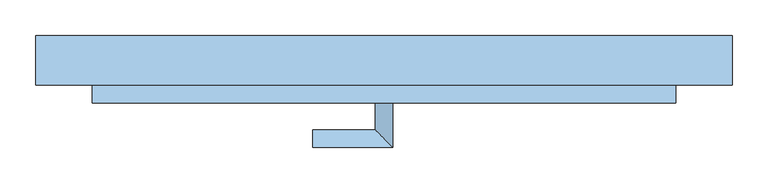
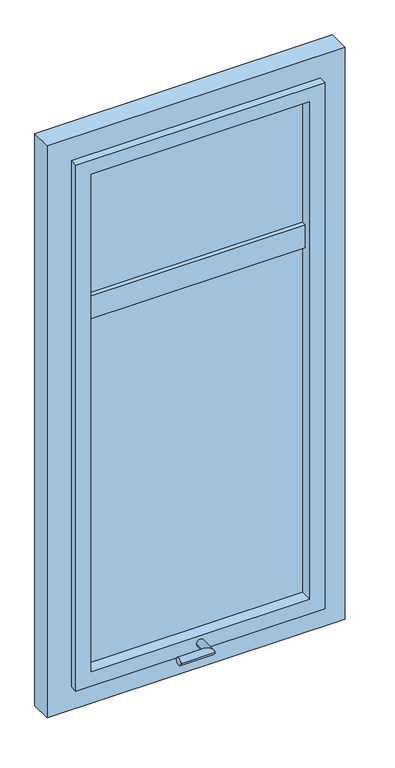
"""IFC4 building model written with IfcOpenShell, lengths in millimetres: window geometry, RFAM2316_Window-10 : Window  FIX (1,0x2)."""

from ifc_helpers import new_model, si_unit, frame, origin, place, context, project, spatial, polyline, circle_curve, ellipse_curve, outline, extrude, faceted_brep, source, transform, mapped, element, save
from ifc_brep_helpers import plane_surface, cylinder_surface, advanced_brep


def window_b37a0a77(model_context):
    return source(origin(), model_context, "Body", "SolidModel", [
        extrude(outline(polyline([(666.8584094, -65.9407167), (666.8584094, -73.9407167), (-153.1415906, -73.9407167), (-153.1415906, -65.9407167), (666.8584094, -65.9407167)])), frame((0.0, 0.0, 2317.0), z_axis=(0.0, 0.0, 1.0), x_axis=(1.0, 0.0, 0.0)), (0.0, 0.0, 1.0), 493.0),
        advanced_brep(
        [(244.3584094, -139.9407167, 1005.0), (269.3584094, -139.9407167, 1005.0), (244.3584094, -177.4407167, 1005.0), (269.3584094, -202.4407167, 1005.0), (156.8584094, -177.4407167, 1005.0), (156.8584094, -202.4407167, 1005.0)],
        [
            (0, 1, circle_curve(frame((256.8584094, -139.9407167, 1005.0), z_axis=(0.0, 1.0, 0.0), x_axis=(1.0, 0.0, 0.0)), 12.5)),
            (1, 0, circle_curve(frame((256.8584094, -139.9407167, 1005.0), z_axis=(0.0, 1.0, 0.0), x_axis=(1.0, 0.0, 0.0)), 12.5)),
            (0, 2),
            (2, 3, ellipse_curve(frame((256.8584094, -189.9407167, 1005.0), z_axis=(0.7071067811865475, 0.7071067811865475, 0.0), x_axis=(-0.7071067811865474, 0.7071067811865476, 0.0)), 17.6776695, 12.5)),
            (3, 1),
            (3, 2, ellipse_curve(frame((256.8584094, -189.9407167, 1005.0), z_axis=(0.7071067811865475, 0.7071067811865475, 0.0), x_axis=(-0.7071067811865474, 0.7071067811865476, 0.0)), 17.6776695, 12.5)),
            (4, 5, circle_curve(frame((156.8584094, -189.9407167, 1005.0), z_axis=(-1.0, 0.0, 0.0), x_axis=(0.0, -1.0, 0.0)), 12.5)),
            (5, 4, circle_curve(frame((156.8584094, -189.9407167, 1005.0), z_axis=(-1.0, 0.0, 0.0), x_axis=(0.0, -1.0, 0.0)), 12.5)),
            (2, 4),
            (5, 3),
        ],
        [
            plane_surface(frame((256.8584094, -139.9407167, 1005.0), z_axis=(0.0, 1.0, 0.0), x_axis=(0.0, 0.0, 1.0))),
            cylinder_surface(frame((256.8584094, -139.9407167, 1005.0), z_axis=(0.0, 1.0, 0.0), x_axis=(1.0, 0.0, 0.0)), 12.5),
            plane_surface(frame((156.8584094, -189.9407167, 1005.0), z_axis=(-1.0, 0.0, 0.0), x_axis=(0.0, 0.0, 1.0))),
            cylinder_surface(frame((256.8584094, -189.9407167, 1005.0), z_axis=(1.0, 0.0, 0.0), x_axis=(0.0, -1.0, 0.0)), 12.5),
        ],
        [
            (0, [[1, 2]]),
            (1, [[-1, 3, 4, 5]]),
            (1, [[-2, -5, 6, -3]]),
            (2, [[7, 8]]),
            (3, [[-4, 9, -8, 10]]),
            (3, [[-6, -10, -7, -9]]),
        ],
    ),
        extrude(outline(polyline([(616.8584094, -90.9407167), (616.8584094, -98.9407167), (-103.1415906, -98.9407167), (-103.1415906, -90.9407167), (616.8584094, -90.9407167)])), frame((0.0, 0.0, 1030.0), z_axis=(0.0, 0.0, 1.0), x_axis=(1.0, 0.0, 0.0)), (0.0, 0.0, 1.0), 1730.0),
        faceted_brep([(-153.1415906, -69.9407167, 980.0), (666.8584094, -69.9407167, 980.0), (666.8584094, -114.9407167, 980.0), (666.8584094, -139.9407167, 980.0), (-153.1415906, -139.9407167, 980.0), (-153.1415906, -114.9407167, 980.0), (-103.1415906, -69.9407167, 1030.0), (-103.1415906, -139.9407167, 1030.0), (616.8584094, -139.9407167, 1030.0), (616.8584094, -69.9407167, 1030.0), (666.8584094, -69.9407167, 2810.0), (666.8584094, -114.9407167, 2810.0), (666.8584094, -139.9407167, 2810.0), (616.8584094, -139.9407167, 2760.0), (616.8584094, -69.9407167, 2760.0), (-153.1415906, -69.9407167, 2810.0), (-153.1415906, -114.9407167, 2810.0), (-153.1415906, -139.9407167, 2810.0), (-103.1415906, -139.9407167, 2760.0), (-103.1415906, -69.9407167, 2760.0)], [[[0, 1, 2, 3, 4, 5]], [[6, 7, 8, 9]], [[1, 10, 11, 12, 3, 2]], [[9, 8, 13, 14]], [[10, 15, 16, 17, 12, 11]], [[14, 13, 18, 19]], [[1, 0, 15, 10], [6, 9, 14, 19]], [[15, 0, 5, 4, 17, 16]], [[4, 3, 12, 17], [8, 7, 18, 13]], [[7, 6, 19, 18]]]),
        extrude(outline(polyline([(2890.0, 746.8584094), (2890.0, -233.1415906), (900.0, -233.1415906), (900.0, 746.8584094), (2890.0, 746.8584094)]), holes=[polyline([(2810.0, -153.1415906), (2810.0, 666.8584094), (2317.0, 666.8584094), (2317.0, -153.1415906), (2810.0, -153.1415906)]), polyline([(980.0, 666.8584094), (980.0, -153.1415906), (2237.0, -153.1415906), (2237.0, 666.8584094), (980.0, 666.8584094)])]), frame((0.0, -114.9407167, 0.0), z_axis=(0.0, 1.0, 0.0), x_axis=(0.0, 0.0, 1.0)), (0.0, 0.0, 1.0), 70.0),
    ])


if __name__ == "__main__":
    model = new_model("IFC4")
    model_context = context("Model", 3, world=origin())
    ifc_project = project(units=[si_unit("LENGTHUNIT", "METRE", prefix="MILLI")], contexts=[model_context])
    site = spatial("IfcSite", under=ifc_project)
    building = spatial("IfcBuilding", under=site)
    placement = place(None, origin())
    window_shape = window_b37a0a77(model_context)
    element("IfcWindow", 1, ObjectType="RFAM2316_Window-10 : Window  FIX (1,0x2)", at=placement, inside=building, context=model_context, shape_type="MappedRepresentation", body=[
        mapped(window_shape, transform((0.0, 0.0, 0.0), x_axis=(1.0, 0.0, 0.0), y_axis=(0.0, 1.0, 0.0), z_axis=(0.0, 0.0, 1.0))),
    ])
    save(model, "model.ifc")
